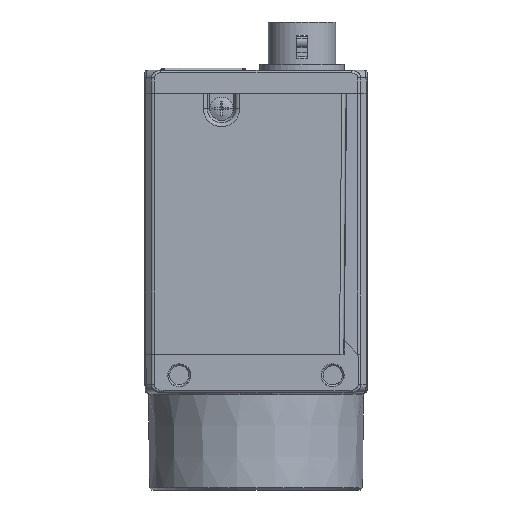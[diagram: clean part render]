
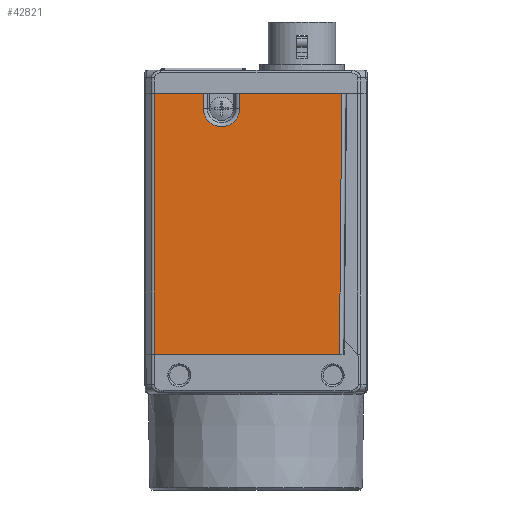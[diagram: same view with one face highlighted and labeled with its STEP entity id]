
A CAD part, left-side view. The second image highlights one B-rep face of the part: STEP entity #42821.
In plain terms, the highlighted planar face has unit normal (-1, 0, 0).
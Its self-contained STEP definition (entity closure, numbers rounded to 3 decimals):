
#11466=DIRECTION('',(0.,1.,0.));
#11467=VECTOR('',#11466,13.318);
#11468=CARTESIAN_POINT('',(-14.5,-11.177,
33.5));
#11469=LINE('',#11468,#11467);
#11470=DIRECTION('',(0.,0.009,-1.));
#11471=VECTOR('',#11470,34.001);
#11472=CARTESIAN_POINT('',(-14.5,-11.177,
33.5));
#11473=LINE('',#11472,#11471);
#11474=DIRECTION('',(0.,0.,1.));
#11475=VECTOR('',#11474,34.);
#11476=CARTESIAN_POINT('',(-14.5,13.293,
-0.5));
#11477=LINE('',#11476,#11475);
#11478=DIRECTION('',(0.,1.,0.));
#11479=VECTOR('',#11478,6.435);
#11480=CARTESIAN_POINT('',(-14.5,6.858,33.5));
#11481=LINE('',#11480,#11479);
#11482=CARTESIAN_POINT('',(-14.5,4.5,31.5));
#11483=DIRECTION('',(-1.,0.,0.));
#11484=DIRECTION('',(0.,1.,0.));
#11485=AXIS2_PLACEMENT_3D('',#11482,#11483,#11484);
#17988=DIRECTION('',(0.,0.,-1.));
#17989=VECTOR('',#17988,2.);
#17990=CARTESIAN_POINT('',(-14.5,2.142,33.5));
#17991=LINE('',#17990,#17989);
#18007=DIRECTION('',(0.,0.,1.));
#18008=VECTOR('',#18007,2.);
#18009=CARTESIAN_POINT('',(-14.5,6.858,31.5));
#18010=LINE('',#18009,#18008);
#18956=CARTESIAN_POINT('',(-14.5,13.293,
-0.5));
#19107=DIRECTION('',(0.,-1.,0.));
#19108=VECTOR('',#19107,24.173);
#19109=CARTESIAN_POINT('',(-14.5,13.293,
-0.5));
#19110=LINE('',#19109,#19108);
#25827=CARTESIAN_POINT('',(-14.5,6.858,31.5));
#25828=CARTESIAN_POINT('',(-14.5,2.142,31.5));
#25829=VERTEX_POINT('',#25827);
#25830=VERTEX_POINT('',#25828);
#26895=VERTEX_POINT('',#18956);
#26896=CARTESIAN_POINT('',(-14.5,-10.88,
-0.5));
#26897=VERTEX_POINT('',#26896);
#26981=CARTESIAN_POINT('',(-14.5,-11.177,
33.5));
#26982=CARTESIAN_POINT('',(-14.5,2.142,33.5));
#26983=VERTEX_POINT('',#26981);
#26984=VERTEX_POINT('',#26982);
#26985=CARTESIAN_POINT('',(-14.5,6.858,33.5));
#26986=CARTESIAN_POINT('',(-14.5,13.293,
33.5));
#26987=VERTEX_POINT('',#26985);
#26988=VERTEX_POINT('',#26986);
#42800=CARTESIAN_POINT('',(-14.5,1.058,16.5));
#42801=DIRECTION('',(1.,0.,0.));
#42802=DIRECTION('',(0.,-1.,0.));
#42803=AXIS2_PLACEMENT_3D('',#42800,#42801,#42802);
#42804=PLANE('',#42803);
#42805=ORIENTED_EDGE('',*,*,#42778,.F.);
#42807=ORIENTED_EDGE('',*,*,#42806,.T.);
#42809=ORIENTED_EDGE('',*,*,#42808,.F.);
#42811=ORIENTED_EDGE('',*,*,#42810,.T.);
#42812=ORIENTED_EDGE('',*,*,#42782,.F.);
#42814=ORIENTED_EDGE('',*,*,#42813,.F.);
#42816=ORIENTED_EDGE('',*,*,#42815,.T.);
#42818=ORIENTED_EDGE('',*,*,#42817,.F.);
#42819=EDGE_LOOP('',(#42805,#42807,#42809,#42811,#42812,#42814,#42816,#42818));
#42820=FACE_OUTER_BOUND('',#42819,.F.);
#42821=ADVANCED_FACE('',(#42820),#42804,.F.);
#11486=CIRCLE('',#11485,2.358);
#42778=EDGE_CURVE('',#26983,#26984,#11469,.T.);
#42782=EDGE_CURVE('',#26987,#26988,#11481,.T.);
#42806=EDGE_CURVE('',#26983,#26897,#11473,.T.);
#42808=EDGE_CURVE('',#26895,#26897,#19110,.T.);
#42810=EDGE_CURVE('',#26895,#26988,#11477,.T.);
#42813=EDGE_CURVE('',#25829,#26987,#18010,.T.);
#42815=EDGE_CURVE('',#25829,#25830,#11486,.T.);
#42817=EDGE_CURVE('',#26984,#25830,#17991,.T.);
